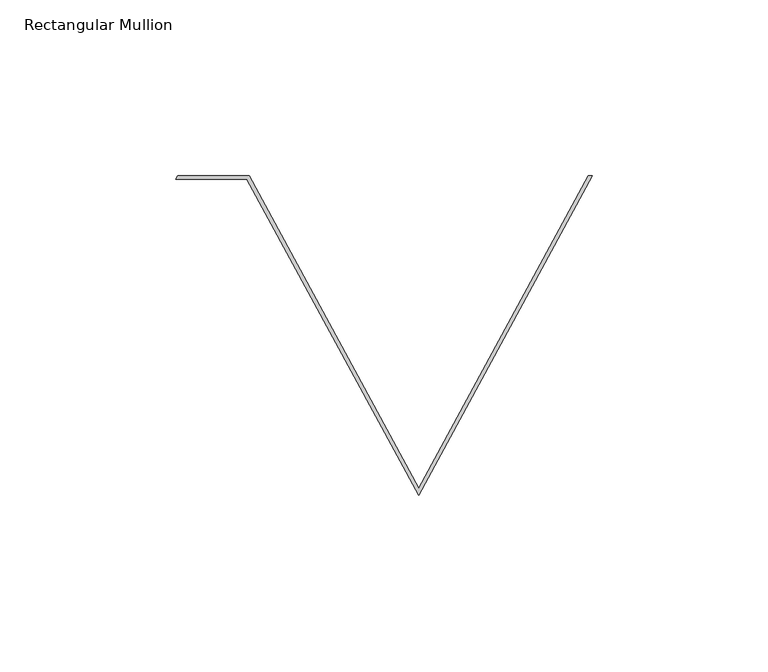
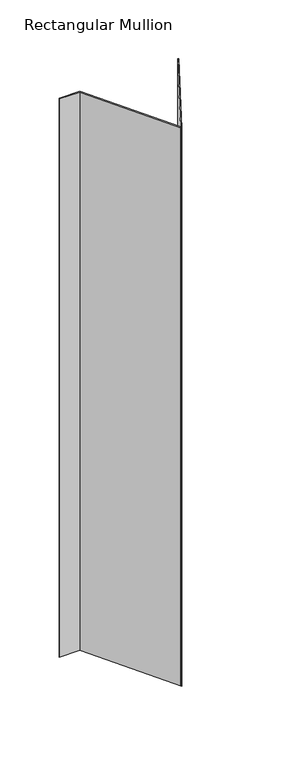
"""IFC4 building model written with IfcOpenShell, lengths in millimetres: member geometry, Rectangular Mullion : CD_NINELINE_Pleat Start Intermediate."""

from ifc_helpers import new_model, si_unit, frame, origin, place, context, project, spatial, polyline, outline, extrude, source, transform, mapped, element, save


def rectangular_mullion_fe7e4276(model_context):
    return source(origin(), model_context, "Body", "SweptSolid", [
        extrude(outline(polyline([(0.4089599, 0.0), (20.7310548, 0.0), (68.9999476, -88.9018164), (117.2688403, 0.0), (118.4089687, 0.0), (69.0, -91.0), (20.133987, -1.0), (-0.1339862, -1.0), (0.4089599, 0.0)])), frame((0.0, 0.0, -582.0625), z_axis=(0.0, 0.0, 1.0), x_axis=(1.0, 0.0, 0.0)), (0.0, 0.0, 1.0), 582.0625),
    ])


if __name__ == "__main__":
    model = new_model("IFC4")
    model_context = context("Model", 3, world=origin())
    ifc_project = project(units=[si_unit("LENGTHUNIT", "METRE", prefix="MILLI")], contexts=[model_context])
    site = spatial("IfcSite", under=ifc_project)
    building = spatial("IfcBuilding", under=site)
    placement = place(None, origin())
    rectangular_mullion_shape = rectangular_mullion_fe7e4276(model_context)
    element("IfcMember", 1, ObjectType="Rectangular Mullion : CD_NINELINE_Pleat Start Intermediate", at=placement, inside=building, context=model_context, shape_type="MappedRepresentation", body=[
        mapped(rectangular_mullion_shape, transform((0.0, 0.0, 0.0), x_axis=(1.0, 0.0, 0.0), y_axis=(0.0, 1.0, 0.0), z_axis=(0.0, 0.0, 1.0))),
    ])
    save(model, "model.ifc")
